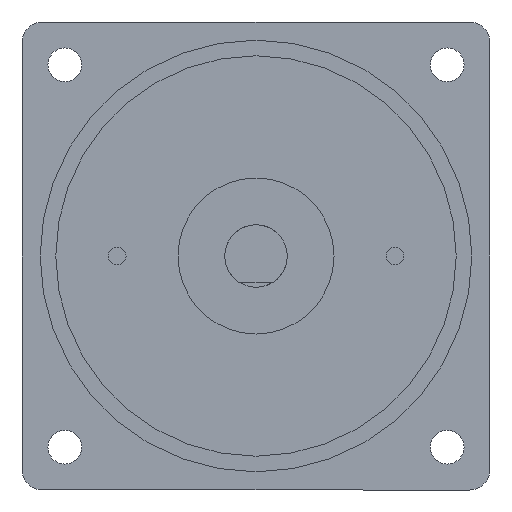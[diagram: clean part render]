
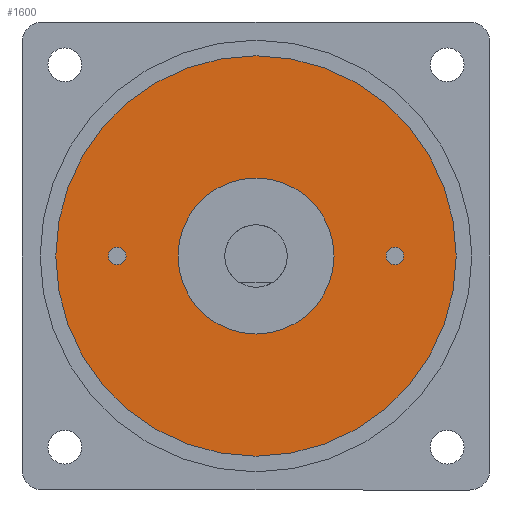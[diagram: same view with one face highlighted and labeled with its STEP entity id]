
A CAD part, front view. The second image highlights one B-rep face of the part: STEP entity #1600.
In plain terms, the highlighted planar face has unit normal (0, -1, 0).
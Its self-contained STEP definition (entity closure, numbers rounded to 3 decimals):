
#327=CARTESIAN_POINT('',(28.4,-1.3,0.));
#328=VERTEX_POINT('',#327);
#329=CARTESIAN_POINT('',(26.7,-1.3,0.0));
#330=DIRECTION('',(0.0,1.0,0.0));
#331=DIRECTION('',(-1.0,0.0,0.0));
#332=AXIS2_PLACEMENT_3D('',#329,#330,#331);
#333=CIRCLE('',#332,1.7);
#334=EDGE_CURVE('',#328,#328,#333,.T.);
#364=CARTESIAN_POINT('',(-25.0,-1.3,0.));
#365=VERTEX_POINT('',#364);
#366=CARTESIAN_POINT('',(-26.7,-1.3,0.0));
#367=DIRECTION('',(0.0,1.0,0.0));
#368=DIRECTION('',(-1.0,0.0,0.0));
#369=AXIS2_PLACEMENT_3D('',#366,#367,#368);
#370=CIRCLE('',#369,1.7);
#371=EDGE_CURVE('',#365,#365,#370,.T.);
#1531=CARTESIAN_POINT('',(15.0,-1.3,0.));
#1532=VERTEX_POINT('',#1531);
#1533=CARTESIAN_POINT('',(0.0,-1.3,0.0));
#1534=DIRECTION('',(0.0,1.0,0.0));
#1535=DIRECTION('',(-1.0,0.0,0.0));
#1536=AXIS2_PLACEMENT_3D('',#1533,#1534,#1535);
#1537=CIRCLE('',#1536,15.0);
#1538=EDGE_CURVE('',#1532,#1532,#1537,.T.);
#1560=CARTESIAN_POINT('',(38.5,-1.3,0.));
#1561=VERTEX_POINT('',#1560);
#1562=CARTESIAN_POINT('',(0.0,-1.3,0.0));
#1563=DIRECTION('',(0.0,-1.0,0.0));
#1564=DIRECTION('',(-1.0,0.0,0.0));
#1565=AXIS2_PLACEMENT_3D('',#1562,#1563,#1564);
#1566=CIRCLE('',#1565,38.5);
#1567=EDGE_CURVE('',#1561,#1561,#1566,.T.);
#1583=CARTESIAN_POINT('',(0.0,-1.3,0.0));
#1584=DIRECTION('',(0.0,1.0,0.0));
#1585=DIRECTION('',(0.0,0.0,1.0));
#1586=AXIS2_PLACEMENT_3D('',#1583,#1584,#1585);
#1587=PLANE('',#1586);
#1588=ORIENTED_EDGE('',*,*,#1567,.T.);
#1589=EDGE_LOOP('',(#1588));
#1590=FACE_OUTER_BOUND('',#1589,.T.);
#1591=ORIENTED_EDGE('',*,*,#334,.T.);
#1592=EDGE_LOOP('',(#1591));
#1593=FACE_BOUND('',#1592,.T.);
#1594=ORIENTED_EDGE('',*,*,#371,.T.);
#1595=EDGE_LOOP('',(#1594));
#1596=FACE_BOUND('',#1595,.T.);
#1597=ORIENTED_EDGE('',*,*,#1538,.T.);
#1598=EDGE_LOOP('',(#1597));
#1599=FACE_BOUND('',#1598,.T.);
#1600=ADVANCED_FACE('',(#1590,#1593,#1596,#1599),#1587,.F.);
